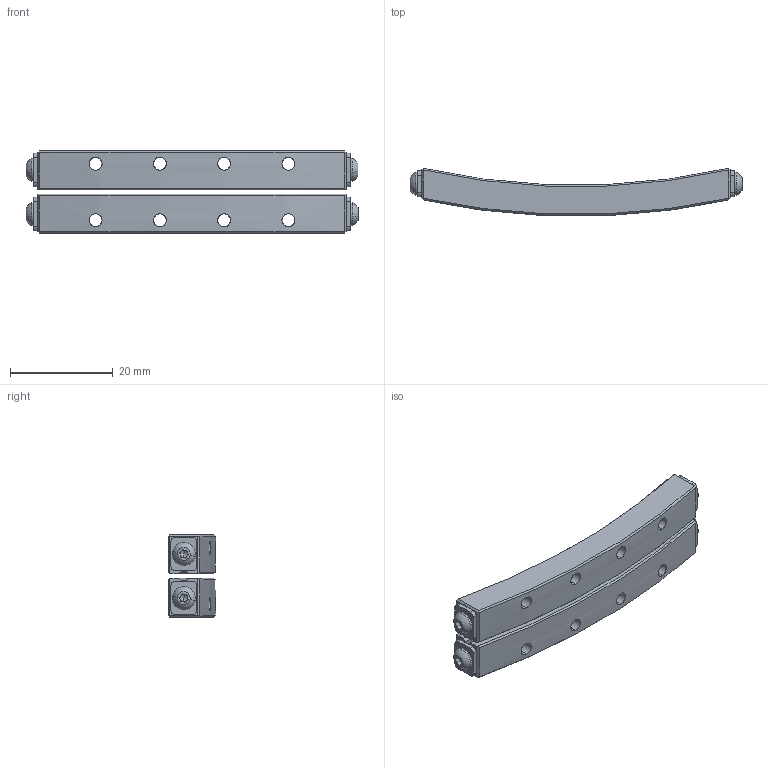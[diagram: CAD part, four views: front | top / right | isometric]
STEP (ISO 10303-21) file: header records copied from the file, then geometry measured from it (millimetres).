
FILE_DESCRIPTION (( 'STEP AP214' ), '1' );
FILE_NAME ('SCRV0260-138.5-9G-3D.STEP', '2020-01-21T08:57:33', ( '' ), ( '' ), 'SwSTEP 2.0', 'SolidWorks 2017', '' );
FILE_SCHEMA (( 'AUTOMOTIVE_DESIGN' ));
Length unit declared in the file: millimetre
Products named in the file (1): SCRV0260-138.5-9G-3D
Bounding box: 64.6 x 9.21 x 16 mm (x, y, z)
Surface area: 4323.7 mm2 (no closed solid volume)
Topology: 0 solids, 10 shells, 166 faces, 464 edges, 292 vertices
Faces by surface type: plane 90, cylinder 48, cone 20, sphere 8
Entity records: 7678 total; most frequent: CARTESIAN_POINT 1647, DIRECTION 870, ORIENTED_EDGE 812, EDGE_CURVE 456, AXIS2_PLACEMENT_3D 307, VERTEX_POINT 292, LINE 256, VECTOR 256
